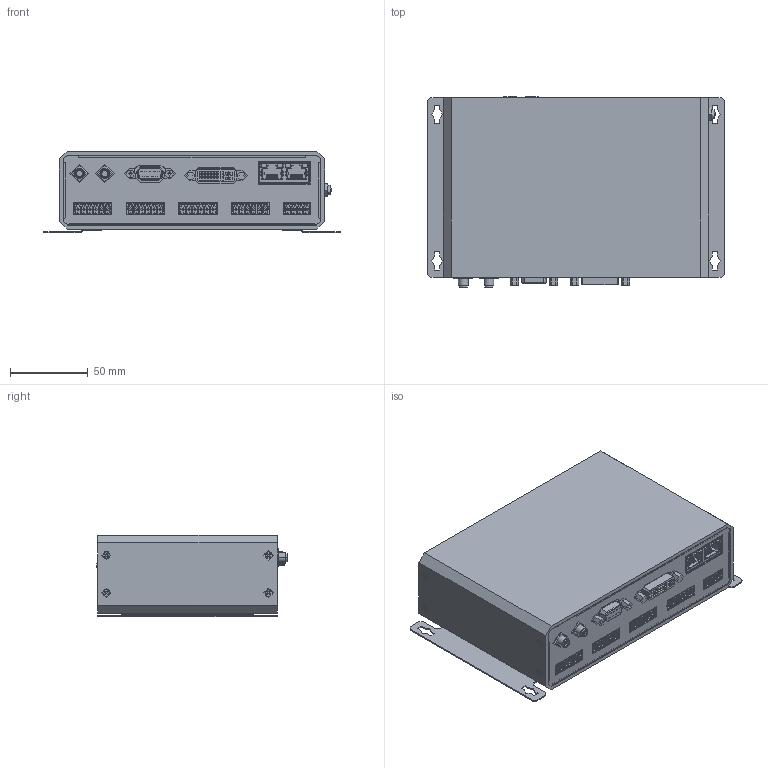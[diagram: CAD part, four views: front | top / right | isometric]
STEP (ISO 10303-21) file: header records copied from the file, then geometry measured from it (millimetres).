
FILE_DESCRIPTION (( 'STEP AP214' ), '1' );
FILE_NAME ('HEMS150 WZ.STEP', '2025-07-18T00:54:06', ( 'Windows User' ), ( 'P R C' ), 'SwSTEP 2.0', 'SolidWorks 2018', '' );
FILE_SCHEMA (( 'AUTOMOTIVE_DESIGN' ));
Length unit declared in the file: millimetre
Products named in the file (5): EM-800(2)^蚾饜极21(2)_蚾饜极21; 蚾饜极21(2)^蚾饜极21; M3(2)^蚾饜极21(2)_蚾饜极21; HEMS150 WZ; M4(2)^蚾饜极21(2)_蚾饜极21
Assembly tree (11 placements, depth 3):
  HEMS150 WZ
    蚾饜极21(2)^蚾饜极21
      EM-800(2)^蚾饜极21(2)_蚾饜极21
      M3(2)^蚾饜极21(2)_蚾饜极21  x8
      M4(2)^蚾饜极21(2)_蚾饜极21
Bounding box: 190 x 122.4 x 52.4 mm (x, y, z)
Topology: 9 solids, 26 shells, 8676 faces, 23430 edges, 15205 vertices
Faces by surface type: plane 6929, cylinder 1328, cone 225, bspline 120, torus 68, sphere 6
Entity records: 323802 total; most frequent: CARTESIAN_POINT 136017, ORIENTED_EDGE 45448, EDGE_CURVE 22778, B_SPLINE_CURVE_WITH_KNOTS 22353, DIRECTION 17132, VERTEX_POINT 14785, EDGE_LOOP 9297, ADVANCED_FACE 8431
